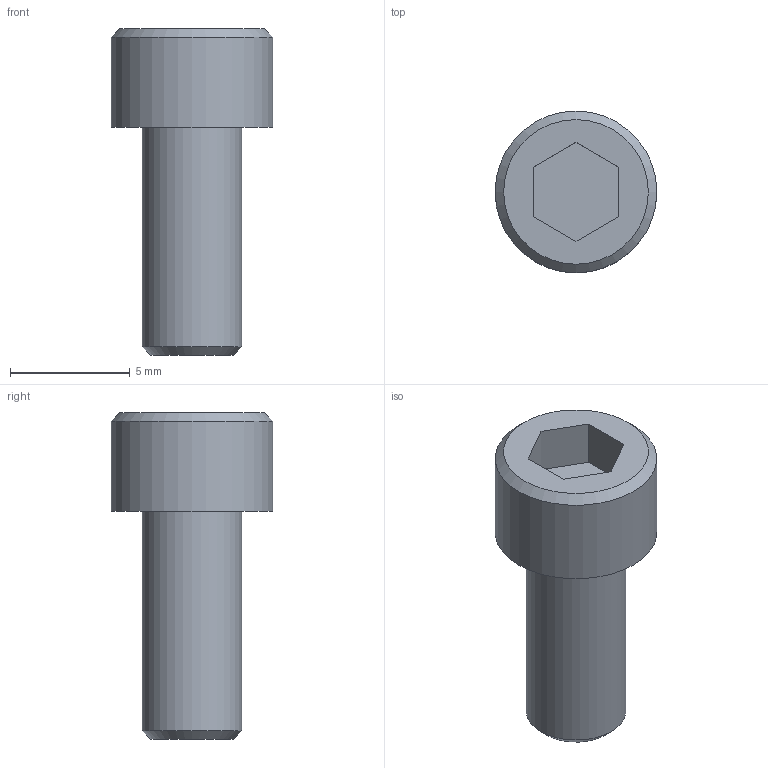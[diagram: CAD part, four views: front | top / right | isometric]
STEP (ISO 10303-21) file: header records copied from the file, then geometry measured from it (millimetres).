
FILE_DESCRIPTION((''),'2;1');
FILE_NAME('C:\Users\Stan\Desktop\import\SHCS 8-32 UNCx0.375.ipt.step','2011-08-18T17:45:27',(''),(''),'Autodesk Inventor 2012','Autodesk Inventor 2012','');
FILE_SCHEMA(('AUTOMOTIVE_DESIGN { 1 0 10303 214 1 1 1 1 }'));
Length unit declared in the file: inch
Products named in the file (1): SHCS 8-32 UNCx0.375
Bounding box: 6.76 x 6.76 x 13.64 mm (x, y, z)
Volume: 253.5 mm3; surface area: 300.5 mm2
Topology: 1 solids, 1 shells, 14 faces, 28 edges, 18 vertices
Faces by surface type: plane 10, cone 2, cylinder 2
Full cylindrical faces by diameter (mm): 4.166 x1, 6.756 x1
Entity records: 391 total; most frequent: DIRECTION 60, CARTESIAN_POINT 57, ORIENTED_EDGE 48, EDGE_CURVE 24, AXIS2_PLACEMENT_3D 21, EDGE_LOOP 20, VERTEX_POINT 18, VECTOR 18
